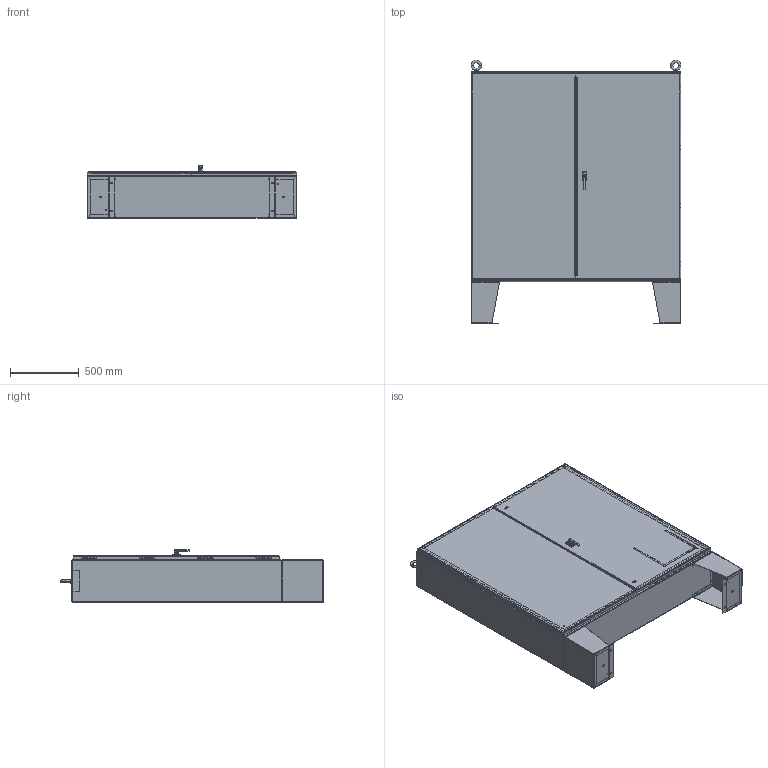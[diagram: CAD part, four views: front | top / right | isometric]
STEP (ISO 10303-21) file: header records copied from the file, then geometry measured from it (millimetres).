
FILE_DESCRIPTION (( 'STEP AP203' ), '1' );
FILE_NAME ('a606012lp.STEP', '2012-11-15T13:51:06', ( 'User' ), ( 'Pentair Inc' ), 'SwSTEP 2.0', 'SolidWorks 2010', '' );
FILE_SCHEMA (( 'CONFIG_CONTROL_DESIGN' ));
Products named in the file (60): 26205003; 89090467_DOOR EXPLODED; 89090457; 89090447; 24110001; 99401225_Config-Drawing; 89090482_DEFAULT; 23418001; 22318001; 87956539; 87922656; 26120009; 26384001; 26384101_SL-THMS 0.19-32x0.375x0.375-C; 26123007_26123007 ; 22108006; 22101005; 99401515; 26274014_26274014; 26273014_26273014; 30101003; 27115001; 22318002; 26118002_26118002; 89090462; 89090452; 89090442; 99404177_Config-Drawing; 89085464_60127101; 89090474_DEFAULT; 89090475; 89089930_Top; 89089930_Bottom; 89085489; 87790201_87790201; 60127135_Installed postion; 60127199_60127199; 89085847; 87790199; a606012lp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
Assembly tree (107 placements, depth 5):
  a606012lp
    87790199  x8
    89085489  x8
      89085847
      60127199_60127199
      60127135_Installed postion
      87790201_87790201
    89090462
      89090452
        89085464_60127101  x4
        99404177_Config-Drawing
        89090442
      89090474_DEFAULT
      89089930_Bottom
      89089930_Top
      89090475
    89090467_DOOR EXPLODED
      22318001  x2
      26384101_SL-THMS 0.19-32x0.375x0.375-C  x2
      26274014_26274014  x2
        22318002
        27115001
        30101003
        26273014_26273014
      26118002_26118002  x2
      23418001
      26384001
      89090482_DEFAULT
      26120009
      99401515
      87922656  x2
      89090457
        89085464_60127101  x4
        24110001  x2
        99404177_Config-Drawing
        99401225_Config-Drawing  x2
        89090447
      22101005
      87956539  x2
      22108006
      26123007_26123007 
    89090673
      89090575
        11258852
        89090491
      87932883  x2
      87951515  x2
        26205003
        26392003
      89085500  x2
      89090592
        99404177_Config-Drawing  x2
        89090508
      99415273_Hex Nut  x2
      89090652
        22112001_AFTER WELD  x8
        11258818  x2
        27104001  x2
        89090631
          89090547
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Bounding box: 1525.99 x 1913.65 x 380.03 mm (x, y, z)
Volume: 21355707.8 mm3; surface area: 16900789.9 mm2
Topology: 132 solids, 132 shells, 7152 faces, 17108 edges, 10316 vertices
Faces by surface type: plane 3674, cylinder 2134, bspline 614, torus 352, cone 300, sphere 78
Entity records: 115112 total; most frequent: CARTESIAN_POINT 40320, ORIENTED_EDGE 14440, DIRECTION 12877, EDGE_CURVE 7220, VERTEX_POINT 4465, LINE 4397, VECTOR 4397, AXIS2_PLACEMENT_3D 4240
